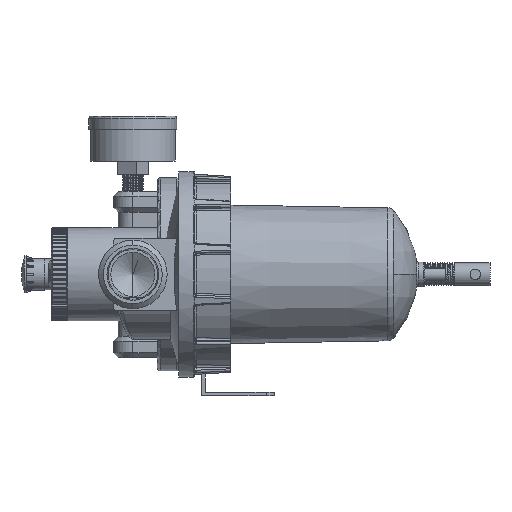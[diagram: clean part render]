
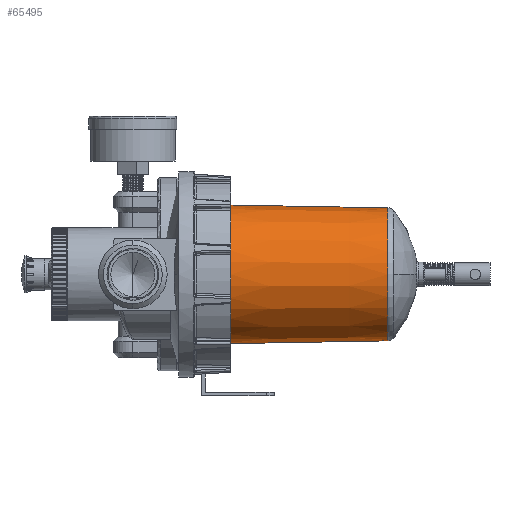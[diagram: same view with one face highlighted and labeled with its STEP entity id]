
A CAD part, left-side view. The second image highlights one B-rep face of the part: STEP entity #65495.
In plain terms, the highlighted conical face has half-angle 1 degrees and reference radius 40.75 mm.
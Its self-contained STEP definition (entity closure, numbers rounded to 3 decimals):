
#527 = CIRCLE ( 'NONE', #21108, 42.469 ) ;
#2396 = AXIS2_PLACEMENT_3D ( 'NONE', #26303, #57456, #55287 ) ;
#3504 = ORIENTED_EDGE ( 'NONE', *, *, #64449, .F. ) ;
#6534 = EDGE_LOOP ( 'NONE', ( #48046, #22869, #46747, #3504 ) ) ;
#6577 = CARTESIAN_POINT ( 'NONE',  ( 0., 2.184, -40.788 ) ) ;
#7616 = EDGE_CURVE ( 'NONE', #30469, #31317, #47528, .T. ) ;
#8376 = VERTEX_POINT ( 'NONE', #20983 ) ;
#8904 = CONICAL_SURFACE ( 'NONE', #65639, 40.75, 0.017 ) ;
#11693 = DIRECTION ( 'NONE',  ( 0., 0., 1. ) ) ;
#11889 = DIRECTION ( 'NONE',  ( 0., 1., 0. ) ) ;
#20205 = CARTESIAN_POINT ( 'NONE',  ( 0., 2.184, 40.788 ) ) ;
#20983 = CARTESIAN_POINT ( 'NONE',  ( 0., 98.5, 42.469 ) ) ;
#21108 = AXIS2_PLACEMENT_3D ( 'NONE', #25211, #11889, #57508 ) ;
#22130 = CIRCLE ( 'NONE', #2396, 40.788 ) ;
#22869 = ORIENTED_EDGE ( 'NONE', *, *, #67310, .T. ) ;
#25211 = CARTESIAN_POINT ( 'NONE',  ( 0., 98.5, 0. ) ) ;
#26303 = CARTESIAN_POINT ( 'NONE',  ( 0., 2.184, 0. ) ) ;
#27923 = VERTEX_POINT ( 'NONE', #20205 ) ;
#28564 = CARTESIAN_POINT ( 'NONE',  ( 0., 0., -40.75 ) ) ;
#30469 = VERTEX_POINT ( 'NONE', #6577 ) ;
#31317 = VERTEX_POINT ( 'NONE', #40493 ) ;
#32718 = LINE ( 'NONE', #59463, #54256 ) ;
#32784 = DIRECTION ( 'NONE',  ( 0., 1., 0. ) ) ;
#34102 = DIRECTION ( 'NONE',  ( 0., 1., -0.017 ) ) ;
#36945 = EDGE_CURVE ( 'NONE', #27923, #8376, #32718, .T. ) ;
#40493 = CARTESIAN_POINT ( 'NONE',  ( 0., 98.5, -42.469 ) ) ;
#46747 = ORIENTED_EDGE ( 'NONE', *, *, #36945, .T. ) ;
#47528 = LINE ( 'NONE', #28564, #59207 ) ;
#48046 = ORIENTED_EDGE ( 'NONE', *, *, #7616, .F. ) ;
#54005 = CARTESIAN_POINT ( 'NONE',  ( 0., 0., 0. ) ) ;
#54256 = VECTOR ( 'NONE', #68428, 1000. ) ;
#55091 = FACE_OUTER_BOUND ( 'NONE', #6534, .T. ) ;
#55287 = DIRECTION ( 'NONE',  ( 0., 0., -1. ) ) ;
#57456 = DIRECTION ( 'NONE',  ( 0., 1., 0. ) ) ;
#57508 = DIRECTION ( 'NONE',  ( 0., 0., 1. ) ) ;
#59207 = VECTOR ( 'NONE', #34102, 1000. ) ;
#59463 = CARTESIAN_POINT ( 'NONE',  ( 0., 0., 40.75 ) ) ;
#64449 = EDGE_CURVE ( 'NONE', #31317, #8376, #527, .T. ) ;
#65495 = ADVANCED_FACE ( 'NONE', ( #55091 ), #8904, .T. ) ;
#65639 = AXIS2_PLACEMENT_3D ( 'NONE', #54005, #32784, #11693 ) ;
#67310 = EDGE_CURVE ( 'NONE', #30469, #27923, #22130, .T. ) ;
#68428 = DIRECTION ( 'NONE',  ( 0., 1., 0.017 ) ) ;
